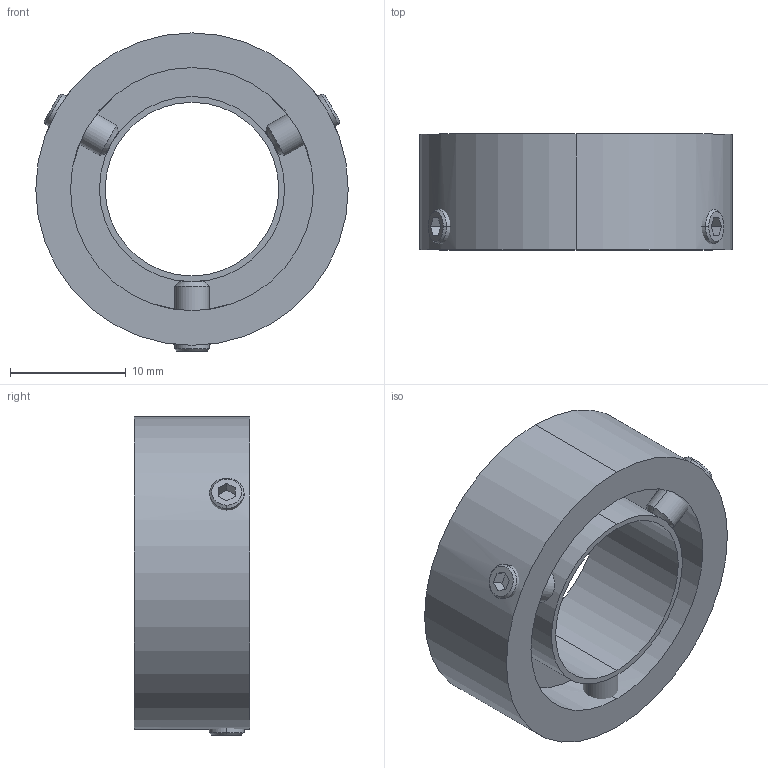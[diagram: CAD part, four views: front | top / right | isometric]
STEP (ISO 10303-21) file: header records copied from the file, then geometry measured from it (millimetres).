
FILE_DESCRIPTION (( 'STEP AP203' ), '1' );
FILE_NAME ('MN01150_Nosilec_24_16_fi15_sestav.STEP', '2017-08-10T09:20:41', ( '' ), ( '' ), 'SwSTEP 2.0', 'SolidWorks 2016', '' );
FILE_SCHEMA (( 'CONFIG_CONTROL_DESIGN' ));
Length unit declared in the file: millimetre
Products named in the file (4): Nosilec_magneta_os_fi15; navojni_zatic_M3x6_DIN913; MN01150_Nosilec_24_16_fi15_sestav; Magnet_D24-d16-w3p5
Assembly tree (5 placements, depth 2):
  MN01150_Nosilec_24_16_fi15_sestav
    Nosilec_magneta_os_fi15
    navojni_zatic_M3x6_DIN913  x3
    Magnet_D24-d16-w3p5
Bounding box: 27 x 10 x 27.5 mm (x, y, z)
Volume: 3313.6 mm3; surface area: 4275.7 mm2
Topology: 5 solids, 5 shells, 83 faces, 184 edges, 116 vertices
Faces by surface type: plane 35, cylinder 28, cone 12, torus 8
Entity records: 2186 total; most frequent: CARTESIAN_POINT 483, DIRECTION 282, ORIENTED_EDGE 240, EDGE_CURVE 120, AXIS2_PLACEMENT_3D 117, VERTEX_POINT 76, EDGE_LOOP 66, CIRCLE 56
